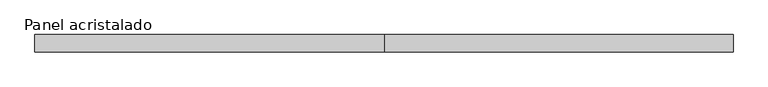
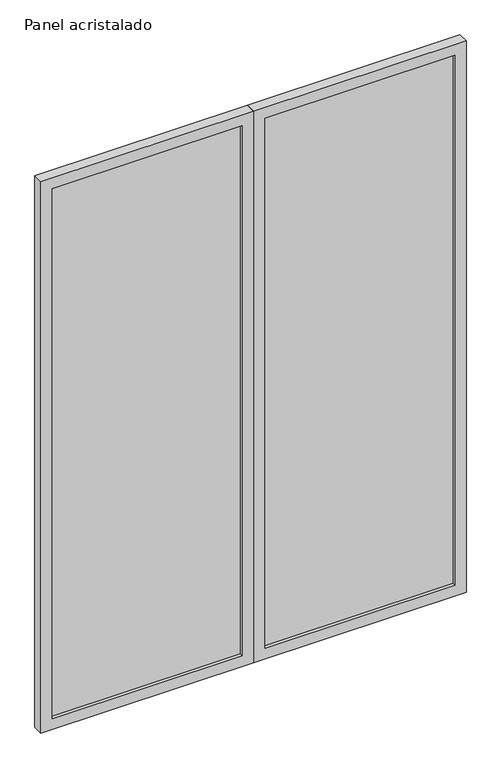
"""IFC4 building model written with IfcOpenShell, lengths in millimetres: plate geometry, M_Panel 2 hojas abatibles : Panel acristalado."""

from ifc_helpers import new_model, si_unit, frame, origin, place, context, project, spatial, polyline, outline, extrude, source, transform, mapped, element, save


def panel_acristalado_a23f5c5c(model_context):
    return source(origin(), model_context, "Body", "SweptSolid", [
        extrude(outline(polyline([(0.0, 0.0), (2820.0, 0.0), (2820.0, -1029.6465517), (0.0, -1029.6465517), (0.0, 0.0)]), holes=[polyline([(55.0, -974.6465517), (2765.0, -974.6465517), (2765.0, -55.0), (55.0, -55.0), (55.0, -974.6465517)])]), frame((0.0, 0.0, 0.0), z_axis=(0.0, 1.0, 0.0), x_axis=(0.0, 0.0, 1.0)), (0.0, 0.0, 1.0), 50.5),
        extrude(outline(polyline([(0.0, 1029.6465517), (2820.0, 1029.6465517), (2820.0, 0.0), (0.0, 0.0), (0.0, 1029.6465517)]), holes=[polyline([(55.0, 55.0), (2765.0, 55.0), (2765.0, 974.6465517), (55.0, 974.6465517), (55.0, 55.0)])]), frame((0.0, 0.0, 0.0), z_axis=(0.0, 1.0, 0.0), x_axis=(0.0, 0.0, 1.0)), (0.0, 0.0, 1.0), 50.5),
        extrude(outline(polyline([(-974.6465517, 15.0), (-974.6465517, 30.0), (-55.0, 30.0), (-55.0, 15.0), (-974.6465517, 15.0)])), frame((0.0, 0.0, 50.0), z_axis=(0.0, 0.0, 1.0), x_axis=(1.0, 0.0, 0.0)), (0.0, 0.0, 1.0), 2720.0),
        extrude(outline(polyline([(974.6465517, 15.0), (55.0, 15.0), (55.0, 30.0), (974.6465517, 30.0), (974.6465517, 15.0)])), frame((0.0, 0.0, 50.0), z_axis=(0.0, 0.0, 1.0), x_axis=(1.0, 0.0, 0.0)), (0.0, 0.0, 1.0), 2720.0),
    ])


if __name__ == "__main__":
    model = new_model("IFC4")
    model_context = context("Model", 3, world=origin())
    ifc_project = project(units=[si_unit("LENGTHUNIT", "METRE", prefix="MILLI")], contexts=[model_context])
    site = spatial("IfcSite", under=ifc_project)
    building = spatial("IfcBuilding", under=site)
    placement = place(None, origin())
    panel_acristalado_shape = panel_acristalado_a23f5c5c(model_context)
    element("IfcPlate", 1, ObjectType="M_Panel 2 hojas abatibles : Panel acristalado", at=placement, inside=building, context=model_context, shape_type="MappedRepresentation", body=[
        mapped(panel_acristalado_shape, transform((0.0, 0.0, 0.0), x_axis=(1.0, 0.0, 0.0), y_axis=(0.0, 1.0, 0.0), z_axis=(0.0, 0.0, 1.0))),
    ])
    save(model, "model.ifc")
